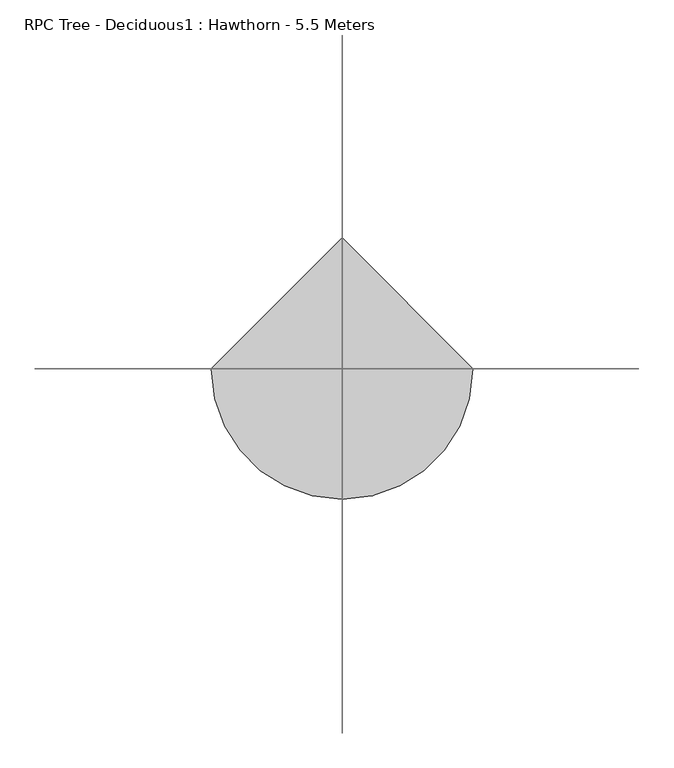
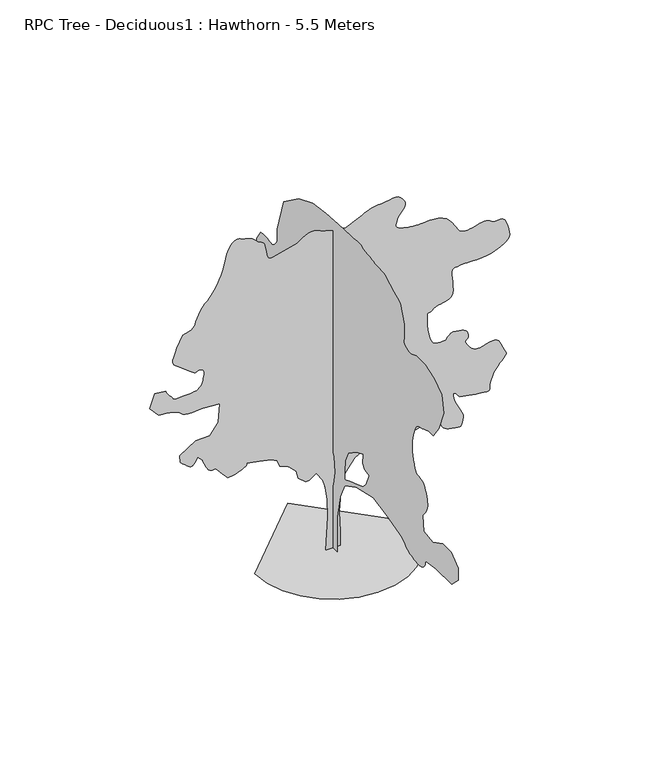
"""IFC4 building model written with IfcOpenShell, lengths in millimetres: geographic element geometry, RPC Tree - Deciduous1 : Hawthorn - 5.5 Meters."""

from ifc_helpers import new_model, si_unit, origin, place, context, project, spatial, triangles, source, transform, mapped, element, save


def rpc_tree_deciduous1_hawthorn_5_5_meters_b1aece7a(model_context):
    return source(origin(), model_context, "Body", "Tessellation", [
        triangles([(114.8598677, 0.0002849, 0.0139362), (-111.2205186, 0.0002849, 0.0139362), (-78.9229079, 0.0002531, 532.9164539), (-86.9974423, 0.0002367, 807.4431564), (-119.2943263, 0.0002242, 1017.3743105), (-151.5919461, 0.0002165, 1146.5636633), (-256.5564149, 0.0002079, 1291.9010857), (-361.5237906, 0.0002122, 1219.2313934), (-418.0435965, 0.0002127, 1211.1574677), (-531.0831356, 0.0002069, 1308.0490826), (-563.3809462, 0.0001992, 1437.2384354), (-676.4204853, 0.0001925, 1550.2779018), (-813.6838366, 0.0001891, 1606.7977077), (-854.0556456, 0.0001833, 1703.6893227), (-942.8731894, 0.0001804, 1752.1350574), (-1128.5805313, 0.000178, 1792.5068665), (-1314.28969, 0.0001761, 1824.8028603), (-1312.8303314, 0.0001765, 1817.8122986), (-1312.9952923, 0.000177, 1810.3964722), (-1316.4090374, 0.0001775, 1802.1337498), (-1324.6957409, 0.000178, 1792.6003201), (-1339.4778328, 0.0001787, 1781.371209), (-1362.3834114, 0.0001795, 1768.0244946), (-1395.033308, 0.0001804, 1752.1350574), (-1431.4486725, 0.0001814, 1736.7168125), (-1464.899683, 0.0001821, 1724.6864422), (-1495.8774433, 0.0001826, 1715.4830795), (-1524.8807602, 0.000183, 1708.5384453), (-1552.3991386, 0.0001833, 1703.2896378), (-1578.9274612, 0.0001836, 1699.1701218), (-1604.9643894, 0.0001838, 1695.6152515), (-1693.7819332, 0.000178, 1792.5068665), (-1790.6735481, 0.0001713, 1905.5464783), (-1809.6943348, 0.0001715, 1902.3014729), (-1828.6436142, 0.0001716, 1900.3213612), (-1847.448135, 0.0001716, 1900.8897858), (-1866.0564468, 0.0001713, 1905.2714951), (-1884.3714626, 0.0001707, 1914.7313828), (-1902.3197857, 0.0001698, 1930.5530914), (-1919.8647903, 0.0001684, 1953.9830566), (-1935.7597504, 0.0001668, 1980.731424), (-1949.1063194, 0.0001653, 2005.7746628), (-1960.3264194, 0.0001639, 2029.4063599), (-1969.8597038, 0.0001626, 2051.9196659), (-1978.1280945, 0.0001613, 2073.5712513), (-1985.5346191, 0.00016, 2094.6728703), (-1992.5379707, 0.0001588, 2115.4811932), (-2065.1929836, 0.0001544, 2188.1545189), (-2113.6478748, 0.0001588, 2115.4811932), (-2122.3928352, 0.0001596, 2101.8411827), (-2131.7979298, 0.0001603, 2089.4845242), (-2142.4494598, 0.0001609, 2079.6762566), (-2155.0261631, 0.0001613, 2073.6629608), (-2170.1327991, 0.0001613, 2072.7463017), (-2188.4295021, 0.000161, 2078.1913181), (-2210.5394897, 0.0001602, 2091.262904), (-2235.0327621, 0.0001591, 2109.7795063), (-2259.2693642, 0.0001579, 2129.7262539), (-2281.9293182, 0.0001567, 2149.5262081), (-2301.7843563, 0.0001557, 2167.6211792), (-2317.5326683, 0.0001548, 2182.4711449), (-2327.9093605, 0.0001542, 2192.51777), (-2331.6493938, 0.000154, 2196.2211777), (-2339.7160526, 0.0001472, 2309.264423), (-2097.4962444, 0.0001381, 2462.6775879), (-1879.4947254, 0.0001376, 2470.7442467), (-1750.3017391, 0.0001275, 2640.3088966), (-1726.077927, 0.0001102, 2930.983596), (-1992.5379707, 0.0001087, 2955.2021759), (-2049.4262135, 0.0001091, 2948.5104332), (-2105.1229591, 0.0001094, 2943.2488358), (-2158.4178165, 0.0001096, 2940.792009), (-2208.119434, 0.0001095, 2942.5887016), (-2252.999398, 0.000109, 2950.0321426), (-2291.8843792, 0.0001082, 2964.5335831), (-2323.5827351, 0.0001068, 2987.5054367), (-2355.5009903, 0.0001053, 3012.126899), (-2395.0459602, 0.0001042, 3031.2303841), (-2440.9524605, 0.0001033, 3045.7687408), (-2491.9374298, 0.0001027, 3056.6218575), (-2546.7358292, 0.0001022, 3064.7068291), (-2604.0823288, 0.0001018, 3070.9767952), (-2662.6938675, 0.0001015, 3076.3119347), (-2799.9555473, 9.24e-05, 3229.7252449), (-2719.2157082, 7.99e-05, 3439.6598145), (-2557.7357391, 8.08e-05, 3423.5081841), (-2547.3041084, 8.19e-05, 3404.5148666), (-2536.5974945, 8.31e-05, 3385.7232811), (-2525.3226013, 8.42e-05, 3367.3714943), (-2513.1858421, 8.52e-05, 3349.6432159), (-2499.9308372, 8.62e-05, 3332.7582001), (-2485.2642906, 8.72e-05, 3316.9550949), (-2468.9109283, 8.8e-05, 3302.3984253), (-2456.6459793, 8.89e-05, 3288.6667053), (-2450.8893539, 8.96e-05, 3275.650058), (-2446.2509743, 9.03e-05, 3264.0449524), (-2437.3775333, 9.09e-05, 3254.5667519), (-2418.8975567, 9.13e-05, 3247.9116348), (-2385.4392792, 9.15e-05, 3244.7766518), (-2331.6493938, 9.14e-05, 3245.8768753), (-2272.0293411, 9.12e-05, 3249.3417801), (-2223.4094891, 9.1e-05, 3252.8066849), (-2183.9745415, 9.08e-05, 3256.2532768), (-2151.89118, 9.06e-05, 3259.7184723), (-2125.3262318, 9.04e-05, 3263.1833771), (-2102.4096073, 9.02e-05, 3266.6482819), (-2081.344614, 9e-05, 3270.0951645), (-2060.7195648, 8.9e-05, 3285.751767), (-2040.9562363, 8.81e-05, 3301.9033974), (-2022.879578, 8.7e-05, 3319.0450836), (-2007.3329979, 8.59e-05, 3337.6532501), (-1995.196384, 8.47e-05, 3358.2598412), (-1987.2763733, 8.33e-05, 3381.323259), (-1984.4529991, 8.18e-05, 3407.3565536), (-1981.5929993, 8.01e-05, 3436.268161), (-1975.3230331, 7.82e-05, 3466.5916008), (-1969.199715, 7.64e-05, 3496.7682472), (-1966.7613464, 7.47e-05, 3525.258078), (-1971.5097485, 7.32e-05, 3550.4847359), (-1987.0013901, 7.2e-05, 3570.9265114), (-2016.7562599, 7.12e-05, 3585.0064659), (-2046.6029846, 7.1e-05, 3588.1597618), (-2064.7345814, 7.14e-05, 3581.559874), (-2078.1913181, 7.19e-05, 3572.2831146), (-2094.0679653, 7.22e-05, 3567.3880646), (-2119.3861874, 7.18e-05, 3573.9330139), (-2161.2411907, 7.04e-05, 3598.9765434), (-2226.6911201, 6.73e-05, 3649.5946747), (-2299.309362, 6.4e-05, 3705.969722), (-2357.8110237, 6.15e-05, 3747.6596191), (-2401.9026638, 5.95e-05, 3780.7328911), (-2431.2908409, 5.77e-05, 3811.2760849), (-2445.7193207, 5.57e-05, 3845.3210999), (-2444.8940804, 5.31e-05, 3888.9911087), (-2428.5408634, 4.95e-05, 3948.3360329), (-2405.2575462, 4.57e-05, 4011.8975601), (-2383.6792122, 4.26e-05, 4065.284127), (-2363.4942524, 3.99e-05, 4110.2008621), (-2344.4643093, 3.76e-05, 4148.3342903), (-2326.2593159, 3.56e-05, 4181.3892494), (-2308.622747, 3.39e-05, 4211.0525551), (-2291.2793289, 3.22e-05, 4239.0107323), (-2258.536124, 3.18e-05, 4246.1239609), (-2226.562785, 3.13e-05, 4254.3557259), (-2196.147781, 3.07e-05, 4264.8606079), (-2168.0611233, 2.98e-05, 4278.7574341), (-2143.0911358, 2.87e-05, 4297.1641594), (-2122.0078297, 2.73e-05, 4321.2173424), (-2105.5629032, 2.55e-05, 4352.0541229), (-2093.8479206, 2.36e-05, 4383.1839088), (-2084.9563122, 2.21e-05, 4409.2172035), (-2076.7613182, 2.06e-05, 4432.995694), (-2067.1546371, 1.92e-05, 4457.3238602), (-2054.0096546, 1.75e-05, 4485.0622833), (-2035.2362366, 1.55e-05, 4518.9971306), (-2008.6712883, 1.3e-05, 4561.9886925), (-1980.987949, 1.06e-05, 4601.2220535), (-1958.2547436, 9.1e-06, 4626.7786331), (-1937.5013592, 8e-06, 4645.6803864), (-1915.7397514, 6.8e-06, 4665.0036255), (-1890.0363785, 5.2e-06, 4691.8069313), (-1857.403196, 2.8e-06, 4733.1669067), (-1814.8954708, -1e-06, 4796.1418419), (-1771.1577335, -5.4e-06, 4869.4934692), (-1735.8954964, -9.5e-06, 4938.0416107), (-1707.6932934, -1.33e-05, 5002.9231155), (-1685.1414722, -1.7e-05, 5065.2565201), (-1666.8264565, -2.07e-05, 5126.1783829), (-1651.3384483, -2.43e-05, 5186.8246811), (-1637.2603832, -2.8e-05, 5248.2965103), (-1620.1003841, -3.16e-05, 5310.0247192), (-1596.8666279, -3.51e-05, 5368.3612747), (-1568.4058651, -3.82e-05, 5419.9145233), (-1535.5673172, -4.06e-05, 5461.2928116), (-1499.1977348, -4.23e-05, 5489.1230896), (-1460.1459034, -4.3e-05, 5499.994519), (-1419.2552307, -4.24e-05, 5490.5346313), (-1378.6965145, -4.14e-05, 5473.2281296), (-1339.9709713, -4.06e-05, 5460.8713257), (-1302.9431442, -4e-05, 5450.4946335), (-1267.4682747, -3.93e-05, 5439.1278854), (-1233.4049469, -3.84e-05, 5423.8014954), (-1200.6139978, -3.71e-05, 5401.5447144), (-1168.9523403, -3.52e-05, 5369.4245819), (-1139.7382078, -3.35e-05, 5340.5496002), (-1114.1980516, -3.25e-05, 5325.387735), (-1092.0459154, -3.2e-05, 5316.8812775), (-1073.0031097, -3.15e-05, 5307.9347305), (-1056.7836056, -3.05e-05, 5291.5078262), (-1043.1069695, -2.87e-05, 5260.5248337), (-1031.6889891, -2.55e-05, 5207.9263), (-1022.0383427, -2.2e-05, 5148.0497223), (-1012.8111443, -1.91e-05, 5099.5951218), (-1002.4528376, -1.69e-05, 5062.1764755), (-989.4123545, -1.53e-05, 5035.3368347), (-972.1331766, -1.43e-05, 5018.6715729), (-949.0643812, -1.39e-05, 5011.7417633), (-918.6494499, -1.4e-05, 5014.1433609), (-547.2329493, -1.98e-05, 5111.0351212), (-503.9644784, -2.16e-05, 5141.8349854), (-460.6282064, -2.33e-05, 5170.5082352), (-417.14892, -2.48e-05, 5194.9282562), (-373.4587815, -2.58e-05, 5213.023082), (-329.4845035, -2.64e-05, 5222.6114502), (-285.158212, -2.64e-05, 5221.6399979), (-240.408418, -2.55e-05, 5207.9263), (-196.1297981, -2.44e-05, 5188.8233963), (-153.1216856, -2.34e-05, 5172.6714752), (-111.1730379, -2.26e-05, 5158.9949844), (-70.0719447, -2.19e-05, 5147.298024), (-29.606287, -2.13e-05, 5137.0684158), (10.4354697, -2.08e-05, 5127.8463043), (50.2653684, -2.03e-05, 5119.1200928), (195.6036311, -1.93e-05, 5102.9681717), (421.6827275, -2.51e-05, 5199.8599319), (454.6863816, -2.63e-05, 5220.4848358), (488.4673502, -2.75e-05, 5240.2481644), (523.801131, -2.86e-05, 5258.324968), (561.4651111, -2.95e-05, 5273.8711121), (602.2365686, -3.02e-05, 5286.0081619), (646.8928545, -3.07e-05, 5293.9280273), (696.2094664, -3.08e-05, 5296.7511108), (749.7390478, -3.11e-05, 5300.5648315), (805.1057264, -3.16e-05, 5309.4561493), (860.1899368, -3.22e-05, 5319.6311096), (912.8726223, -3.27e-05, 5327.2579697), (961.0360342, -3.27e-05, 5328.5230087), (1002.5609705, -3.22e-05, 5319.6311096), (1035.3299732, -3.08e-05, 5296.7511108), (1060.8939651, -2.91e-05, 5266.9413025), (1081.6564333, -2.74e-05, 5239.2581085), (1096.7685923, -2.58e-05, 5212.8579758), (1105.3852175, -2.43e-05, 5186.8613068), (1106.6557068, -2.27e-05, 5160.4431519), (1099.7349083, -2.11e-05, 5132.7599579), (1083.7738913, -1.93e-05, 5102.9681717), (1064.0014063, -1.77e-05, 5075.8535477), (1046.2052542, -1.64e-05, 5055.0815598), (1030.3854349, -1.54e-05, 5038.1418961), (1016.5438379, -1.45e-05, 5022.4666901), (1004.6803179, -1.35e-05, 5005.5084229), (994.7932034, -1.22e-05, 4984.7550385), (986.882349, -1.06e-05, 4957.6218109), (978.5498634, -8.9e-06, 4928.361969), (969.6527321, -7.3e-06, 4902.4931992), (963.5789022, -6e-06, 4879.4486755), (963.7200274, -4.7e-06, 4858.6583748), (973.4660168, -3.6e-06, 4839.5734932), (996.2048178, -2.5e-06, 4821.6068573), (1035.3299732, -1.5e-06, 4804.2085007), (1084.5274063, -6e-07, 4789.2669708), (1134.2913746, 0.0, 4778.5603569), (1183.2083015, 5e-07, 4771.3735863), (1229.864756, 7e-07, 4767.0285027), (1272.8490509, 9e-07, 4764.7920113), (1310.7494991, 9e-07, 4763.9667709), (1342.1526695, 9e-07, 4763.8385811), (1377.6276844, 8e-07, 4765.8000893), (1426.2383801, 6e-07, 4769.5952065), (1484.3109982, 4e-07, 4772.1069717), (1548.1751232, 5e-07, 4770.2553406), (1614.1585957, 1.1e-06, 4760.9053299), (1678.5873665, 2.3e-06, 4740.9585823), (1737.7929096, 4.3e-06, 4707.3170311), (1787.1792847, 6.9e-06, 4662.8586983), (1826.397821, 9.8e-06, 4614.5686226), (1858.1364361, 1.27e-05, 4565.5820778), (1885.0680771, 1.55e-05, 4518.9971306), (1909.8731037, 1.8e-05, 4477.9304512), (1935.2464096, 1.99e-05, 4445.4620842), (1963.8647209, 2.11e-05, 4424.7273033), (1995.9663952, 2.18e-05, 4414.4055496), (2029.7362816, 2.2e-05, 4410.4639297), (2064.9363132, 2.19e-05, 4411.8022202), (2101.2545906, 2.16e-05, 4417.3757172), (2138.4161304, 2.11e-05, 4426.1388451), (2176.1645531, 2.04e-05, 4437.0105652), (2214.1695007, 1.97e-05, 4448.9455925), (2248.6910854, 1.93e-05, 4455.655648), (2282.626078, 1.9e-05, 4461.1006645), (2315.4426796, 1.88e-05, 4463.99729), (2346.5726109, 1.89e-05, 4463.0804855), (2375.4292797, 1.92e-05, 4457.0671898), (2401.4625744, 1.99e-05, 4444.7106766), (2424.1042156, 2.11e-05, 4424.7273033), (2449.3493317, 2.2e-05, 4410.060466), (2481.6342796, 2.21e-05, 4409.2355164), (2518.1724564, 2.18e-05, 4414.3506111), (2556.1224655, 2.16e-05, 4417.4672813), (2592.6606422, 2.2e-05, 4410.7206001), (2624.9455902, 2.34e-05, 4386.1723892), (2650.1905609, 2.64e-05, 4335.9022018), (2670.08237, 3.02e-05, 4273.1289986), (2686.7290283, 3.36e-05, 4216.2775269), (2697.8574188, 3.66e-05, 4165.3658089), (2701.2307594, 3.93e-05, 4120.3758224), (2694.5573296, 4.16e-05, 4081.3258804), (2675.6189507, 4.36e-05, 4048.19767), (2642.1055893, 4.52e-05, 4021.0092133), (2602.0655914, 4.66e-05, 3996.9010918), (2563.0156494, 4.8e-05, 3973.5077522), (2521.9858864, 4.93e-05, 3951.5259544), (2476.0058441, 5.05e-05, 3931.6527489), (2422.1242493, 5.15e-05, 3914.6026268), (2357.3709343, 5.23e-05, 3901.0912422), (2278.7760223, 5.29e-05, 3891.8144829), (2201.9411774, 5.32e-05, 3887.1394775), (2141.6245102, 5.32e-05, 3885.9843155), (2093.6095631, 5.32e-05, 3886.9560585), (2053.624649, 5.31e-05, 3888.6245613), (2017.4713326, 5.3e-05, 3889.5777008), (1980.8963848, 5.31e-05, 3888.4228294), (1939.6464317, 5.34e-05, 3883.7478241), (1899.8814171, 5.37e-05, 3878.7795227), (1869.7413963, 5.39e-05, 3875.6445396), (1847.9065372, 5.41e-05, 3871.2445175), (1833.1536587, 5.46e-05, 3862.4627861), (1824.1850201, 5.56e-05, 3846.2012787), (1819.7355824, 5.72e-05, 3819.3427437), (1818.5346382, 5.96e-05, 3778.7896957), (1821.7832771, 6.29e-05, 3724.2845924), (1828.704221, 6.66e-05, 3661.1814674), (1835.0548508, 7.06e-05, 3594.6680855), (1836.6131859, 7.45e-05, 3530.0063347), (1829.1277416, 7.79e-05, 3472.4031647), (1808.3652008, 8.06e-05, 3427.0832565), (1770.0889034, 8.23e-05, 3399.2898949), (1723.5974098, 8.31e-05, 3384.6233482), (1680.9193462, 8.38e-05, 3373.9167343), (1641.9132969, 8.43e-05, 3365.1716286), (1606.4384274, 8.48e-05, 3356.4448357), (1574.3533218, 8.54e-05, 3345.7382217), (1545.5149658, 8.63e-05, 3331.0716751), (1519.786013, 8.76e-05, 3310.4650841), (1497.5164421, 8.85e-05, 3294.386705), (1479.0621906, 8.88e-05, 3289.6201355), (1464.2782093, 8.89e-05, 3288.6483925), (1453.0270065, 8.91e-05, 3284.0100128), (1445.1638237, 9.01e-05, 3268.2249298), (1440.5494251, 9.21e-05, 3233.7767418), (1439.042395, 9.57e-05, 3173.2034042), (1442.3387054, 0.0001003, 3095.7453415), (1451.5676479, 0.000105, 3018.1218819), (1465.7375679, 0.0001094, 2944.1836624), (1483.8636417, 0.0001133, 2877.7255096), (1504.9561043, 0.0001166, 2822.5788757), (1528.0248997, 0.000119, 2782.5388779), (1552.0837509, 0.0001203, 2761.4189461), (1579.7194187, 0.0001208, 2753.3522873), (1612.0171566, 0.000121, 2749.2272484), (1645.7267269, 0.0001211, 2748.072377), (1677.6009441, 0.000121, 2748.8973267), (1704.3878265, 0.0001209, 2750.7123322), (1722.8439674, 0.0001208, 2752.5273376), (1729.7189838, 0.0001208, 2753.3522873), (1732.2837982, 0.0001204, 2759.5306892), (1740.357724, 0.0001195, 2775.1872917), (1754.5055523, 0.0001182, 2795.9220726), (1775.2919289, 0.0001169, 2817.3722168), (1803.2813541, 0.0001159, 2835.1554337), (1839.0330963, 0.0001153, 2844.8722824), (1883.1247364, 0.0001155, 2842.1587852), (1928.5914379, 0.000116, 2832.8820259), (1967.9713017, 0.0001165, 2824.3206299), (2001.1362831, 0.0001171, 2814.2006081), (2027.9395889, 0.000118, 2800.2671562), (2048.2713421, 0.0001192, 2780.2471573), (2061.9479782, 0.0001208, 2751.9038292), (2068.8413074, 0.0001232, 2712.9823677), (2066.2562908, 0.0001253, 2677.7821907), (2055.0363361, 0.0001265, 2657.8357338), (2040.4428955, 0.0001271, 2646.6707176), (2027.6829185, 0.0001276, 2637.7424835), (2021.9996899, 0.0001284, 2624.5790428), (2028.5812649, 0.0001299, 2600.6906754), (2052.689677, 0.0001323, 2559.5690575), (2085.4879658, 0.000135, 2515.1659538), (2115.2979195, 0.0001368, 2484.1823799), (2143.1462196, 0.000138, 2464.2176102), (2170.0227768, 0.0001387, 2452.8874878), (2196.8811665, 0.000139, 2447.7540802), (2224.7294666, 0.0001391, 2446.4341026), (2254.5394203, 0.000139, 2446.5259575), (2291.4810608, 0.0001386, 2453.5842476), (2337.4609577, 0.0001377, 2469.4059563), (2388.6476589, 0.0001367, 2485.9241341), (2441.26436, 0.0001362, 2495.1090385), (2491.4793182, 0.0001365, 2488.8943016), (2535.4792488, 0.0001383, 2459.2309959), (2569.4507217, 0.0001419, 2398.0709209), (2596.2540276, 0.000146, 2330.4209805), (2619.8124733, 0.0001488, 2282.9743126), (2637.8706734, 0.0001507, 2250.194482), (2648.1558014, 0.0001522, 2226.6177235), (2648.4307846, 0.0001533, 2206.6894341), (2636.3855896, 0.0001546, 2184.9461391), (2609.8206413, 0.0001564, 2155.8511127), (2578.5806877, 0.0001583, 2123.7678967), (2553.4458847, 0.00016, 2096.2312054), (2533.3523438, 0.0001615, 2072.4713184), (2517.310881, 0.0001628, 2051.7362469), (2504.3125465, 0.000164, 2033.2745831), (2493.3492622, 0.0001652, 2016.3346287), (2483.3940559, 0.0001662, 2000.1280598), (2480.919207, 0.000166, 2001.9062943), (2477.5458664, 0.000166, 2000.8796127), (2472.394146, 0.0001662, 1994.3163506), (2464.5658447, 0.000167, 1979.4297592), (2453.162471, 0.0001685, 1953.451403), (2437.267511, 0.0001708, 1913.5948242), (2416.0375568, 0.0001742, 1857.1097546), (2400.0325745, 0.0001776, 1799.4515007), (2395.7425747, 0.0001802, 1756.7715477), (2396.1092674, 0.0001819, 1727.2293102), (2394.0926754, 0.000183, 1708.9858017), (2382.5975922, 0.0001835, 1700.2059597), (2354.5843311, 0.0001836, 1699.050943), (2302.9943115, 0.0001833, 1703.6893227), (2240.0744602, 0.0001829, 1710.8448452), (2182.2327873, 0.0001824, 1718.4256325), (2128.6261757, 0.000182, 1726.3584332), (2078.4112175, 0.0001815, 1734.5736294), (2030.7446503, 0.000181, 1743.001458), (1984.7830662, 0.0001805, 1751.5704117), (1939.6464317, 0.00018, 1760.2091286), (1910.6064892, 0.0001778, 1795.7555054), (1883.7480995, 0.000176, 1826.5683048), (1861.2531063, 0.0001747, 1847.9248501), (1845.3398335, 0.0001743, 1855.0748497), (1838.1898338, 0.000175, 1843.3047832), (1841.9848057, 0.0001771, 1807.8775852), (1858.9064472, 0.0001809, 1744.0611317), (1885.9847363, 0.0001853, 1670.097187), (1916.2897179, 0.0001891, 1606.1615547), (1946.1913811, 0.0001925, 1550.4191723), (1971.9863182, 0.0001954, 1501.0310532), (1990.0263508, 0.0001981, 1456.163879), (1996.6080711, 0.0002006, 1413.980698), (1988.1013229, 0.0002031, 1372.6428143), (1975.4513683, 0.0002052, 1335.9450542), (1969.0347542, 0.0002069, 1308.4247864), (1964.158017, 0.000208, 1289.3820534), (1956.1830677, 0.0002087, 1278.1052708), (1940.4347557, 0.0002089, 1273.8921558), (1912.2563885, 0.0002088, 1276.0335949), (1866.973106, 0.0002083, 1283.8252705), (1816.3695087, 0.0002077, 1293.9012543), (1774.5145054, 0.0002071, 1304.1183632), (1740.2862167, 0.0002065, 1315.6060341), (1712.5570953, 0.0002056, 1329.4935585), (1690.1940708, 0.0002046, 1346.9138615), (1672.067997, 0.0002033, 1368.9944904), (1657.0492916, 0.0002016, 1396.8666264), (1647.5617893, 0.0001998, 1426.9277275), (1644.4323292, 0.0001982, 1454.446106), (1644.1262432, 0.0001967, 1478.8568253), (1643.114241, 0.0001955, 1499.5955303), (1637.8635441, 0.0001945, 1516.0972847), (1624.8468967, 0.0001938, 1527.7958439), (1600.529631, 0.0001934, 1534.1299049), (1571.7389465, 0.0001933, 1536.8836613), (1547.1869568, 0.0001932, 1538.3668556), (1526.1660015, 0.0001932, 1538.7902309), (1507.9682751, 0.0001932, 1538.3668556), (1491.8917854, 0.0001932, 1537.3071819), (1477.2252388, 0.0001933, 1535.8239876), (1463.2662071, 0.0001934, 1534.1299049), (1269.4831226, 0.0001978, 1461.460358), (1140.2936972, 0.0001925, 1550.2779018), (996.7218647, 0.0001952, 1498.0335617), (1018.3331182, 0.0001961, 1484.9288383), (1036.9231173, 0.0001969, 1471.3677475), (1049.4704618, 0.0001979, 1456.8934856), (1052.9537521, 0.0001989, 1441.0480865), (1044.3518063, 0.0002, 1423.3747467), (1020.6449684, 0.0002012, 1403.4170986), (978.8101673, 0.0002026, 1380.71674), (933.6130714, 0.0002038, 1360.80313), (899.0071169, 0.0002045, 1348.9378658), (870.7591318, 0.0002047, 1344.2775398), (844.6304941, 0.0002046, 1345.9714771), (816.382509, 0.0002042, 1353.1764153), (781.7783712, 0.0002035, 1365.0399353), (736.5812754, 0.0002026, 1380.71674), (526.6483046, 0.0001987, 1445.3123611), (332.8651837, 0.000205, 1340.3468204), (187.5278159, 0.0002165, 1146.5636633), (139.082944, 0.0002247, 1009.300312), (122.9338571, 0.0002348, 839.740967), (98.7115165, 0.0002517, 557.140266), (114.8598677, 0.0002719, 218.0197773), (-8.87e-05, -113.6726037, 0.0115907), (-8.87e-05, 120.4837977, 0.0116047), (-7.31e-05, 128.2890262, 507.3506453), (-6.26e-05, 167.314969, 764.922714), (-5.22e-05, 292.1982074, 1022.4947828), (-4.7e-05, 409.2765807, 1194.2082842), (-4.18e-05, 612.2116865, 1334.7019615), (-3.13e-05, 963.4468609, 1490.8065319), (-2.09e-05, 1377.1235001, 1537.6371037), (-2.09e-05, 1619.0847485, 1389.3388882), (-2.09e-05, 1798.6046047, 1365.9236023), (-1.57e-05, 1900.0648361, 1561.0542789), (-1.04e-05, 2063.9828831, 1584.4695648), (-5.2e-06, 2407.4026188, 1607.8848507), (0.0, 2610.3522949, 1623.4956711), (5.2e-06, 2711.8088928, 1701.5480289), (5.2e-06, 2704.0172173, 1826.4308132), (1.04e-05, 2828.8854675, 1904.4830257), (1.04e-05, 2863.8286835, 1911.266478), (1.04e-05, 2897.5987152, 1918.5997513), (1.04e-05, 2929.0404007, 1927.01479), (1.57e-05, 2956.9985779, 1937.0614151), (1.57e-05, 2980.3369789, 1949.3080513), (1.57e-05, 2997.8452126, 1964.2863522), (1.57e-05, 3008.4053238, 1982.5279713), (1.57e-05, 3014.6386642, 2004.4180595), (1.57e-05, 3020.0653679, 2029.5896336), (1.57e-05, 3024.7953117, 2057.4928722), (2.09e-05, 3028.9752892, 2087.5779545), (2.09e-05, 3032.7520935, 2119.2944778), (2.09e-05, 3036.2719368, 2152.1112247), (2.09e-05, 3039.6269646, 2185.4777927), (2.61e-05, 2906.9487259, 2349.3776722), (2.09e-05, 2618.1439705, 2364.997649), (1.57e-05, 2446.4341026, 2240.1110859), (1.57e-05, 2435.9475334, 2238.03941), (1.57e-05, 2408.3925293, 2233.0894215), (1.57e-05, 2369.6360287, 2227.2044609), (1.04e-05, 2325.5627014, 2222.2727852), (1.04e-05, 2282.0210278, 2220.2011093), (1.04e-05, 2244.9144264, 2222.8961483), (1.04e-05, 2220.091087, 2232.3010975), (1.04e-05, 2203.1328197, 2248.1777447), (1.04e-05, 2185.7710888, 2268.5827492), (1.04e-05, 2168.0611233, 2292.7093288), (1.04e-05, 2150.0944874, 2319.8610146), (1.57e-05, 2131.9078068, 2349.2676498), (1.57e-05, 2113.5929363, 2380.1776817), (1.57e-05, 2095.2045238, 2411.8209538), (2.09e-05, 2056.1728947, 2606.9606415), (2.61e-05, 2220.091087, 2731.8288918), (3.65e-05, 2344.9776501, 2942.5703888), (3.65e-05, 2142.0278286, 3129.9002335), (3.13e-05, 1931.2863316, 3059.6469635), (2.61e-05, 1798.6046047, 2950.3803772), (2.61e-05, 1650.3044998, 3051.8552879), (3.13e-05, 1650.3044998, 3223.5651558), (4.18e-05, 1790.7982498, 3379.6733597), (4.18e-05, 1820.8135689, 3396.3749565), (4.18e-05, 1850.289822, 3412.9300507), (4.18e-05, 1878.6514629, 3429.2281837), (4.18e-05, 1905.3998302, 3445.1048309), (4.18e-05, 1929.9480412, 3460.4498245), (4.7e-05, 1951.7647327, 3475.0980583), (4.7e-05, 1970.3179607, 3488.939946), (4.7e-05, 1984.7647533, 3508.2448723), (4.7e-05, 1995.1229874, 3538.1831612), (4.7e-05, 2002.0714005, 3577.0130585), (5.22e-05, 2006.2696907, 3622.9198494), (5.22e-05, 2008.4329308, 3674.1798019), (5.22e-05, 2009.2397129, 3728.9595978), (5.22e-05, 2009.3495899, 3785.5360863), (5.74e-05, 1907.8748245, 3941.6442902), (5.74e-05, 1904.2080425, 3942.4878433), (5.74e-05, 1893.8681213, 3944.5595192), (5.74e-05, 1877.7714294, 3947.1811615), (5.74e-05, 1856.908168, 3949.6560104), (5.74e-05, 1832.2150532, 3951.3059097), (5.74e-05, 1804.6564156, 3951.4710159), (5.74e-05, 1775.1891735, 3949.4542786), (5.74e-05, 1743.8777126, 3944.9260666), (5.22e-05, 1711.0630005, 3939.0226479), (5.22e-05, 1678.1125408, 3933.2660225), (5.22e-05, 1646.3922386, 3929.1409836), (5.22e-05, 1617.26422, 3928.1695313), (5.22e-05, 1592.0962795, 3931.8361679), (5.22e-05, 1572.2540314, 3941.6442902), (5.22e-05, 1556.2106792, 3955.7059319), (5.22e-05, 1541.3973392, 3970.9959869), (5.22e-05, 1527.6069019, 3987.3127235), (5.22e-05, 1514.636182, 4004.4544098), (5.22e-05, 1502.2795235, 4022.201001), (5.22e-05, 1490.3317062, 4040.3510559), (5.22e-05, 1478.5909985, 4058.7208649), (6.26e-05, 1470.7846436, 4253.8423851), (7.31e-05, 1306.875753, 4800.2119423), (7.83e-05, 908.8099342, 5089.0166977), (7.83e-05, 534.159474, 5245.1065887), (7.31e-05, 190.7306364, 5291.9479156), (6.79e-05, -144.8933179, 5315.3598587), (6.26e-05, -472.7116985, 5330.9798355), (6.26e-05, -501.4528221, 5332.6111313), (6.26e-05, -543.9824573, 5336.424852), (6.26e-05, -594.9783998, 5340.8065613), (6.26e-05, -649.1148846, 5344.0697342), (6.26e-05, -701.0660013, 5344.6197006), (5.74e-05, -745.5077654, 5340.8065613), (5.74e-05, -777.1162285, 5330.9798355), (5.74e-05, -809.6340111, 5318.4945511), (5.74e-05, -856.6241661, 5307.6777695), (5.74e-05, -912.4894335, 5298.1998596), (5.74e-05, -971.6308817, 5289.8213013), (5.22e-05, -1028.4513233, 5282.2682739), (5.22e-05, -1077.3535709, 5275.2646317), (5.22e-05, -1112.738693, 5268.536554), (5.22e-05, -1145.1886745, 5263.8798615), (5.22e-05, -1186.9226824, 5261.9730011), (5.22e-05, -1234.8000652, 5260.7445877), (4.7e-05, -1285.6824245, 5258.1598618), (4.7e-05, -1336.4271469, 5252.1462753), (4.7e-05, -1383.8957611, 5240.6696503), (4.7e-05, -1424.9477612, 5221.6946457), (4.7e-05, -1464.70173, 5197.604837), (4.18e-05, -1509.7815365, 5172.2680115), (4.18e-05, -1559.2979908, 5145.9231079), (4.18e-05, -1612.3637924, 5118.7532547), (3.65e-05, -1668.0933849, 5090.9601837), (3.65e-05, -1725.5958344, 5062.7630676), (3.65e-05, -1783.9873283, 5034.364801), (2.61e-05, -1893.2630711, 4761.1986259), (1.57e-05, -1885.4530827, 4511.4254997), (1.57e-05, -1879.0547813, 4499.6555786), (1.57e-05, -1874.4348598, 4487.5554451), (1.57e-05, -1873.3714073, 4474.7588425), (1.57e-05, -1877.6247814, 4460.9538712), (1.57e-05, -1888.9913841, 4445.7739838), (1.57e-05, -1909.2131149, 4428.8889679), (1.57e-05, -1940.0863758, 4409.950589), (1.57e-05, -1977.1197258, 4394.8988914), (1.04e-05, -2014.5562489, 4388.8306572), (1.04e-05, -2052.3229843, 4390.2971375), (1.04e-05, -2090.3645576, 4397.7588913), (1.04e-05, -2128.6261757, 4409.7305443), (1.04e-05, -2167.0161289, 4424.7089905), (1.04e-05, -2205.461166, 4441.1722298), (5.2e-06, -2447.4241585, 4441.1722298), (0.0, -2689.3872963, 4363.1272842), (-5.2e-06, -2884.5271294, 4222.6390572), (-1.57e-05, -2931.3504341, 3949.4542786), (-2.09e-05, -2798.6721954, 3621.6364975), (-2.61e-05, -2658.1656555, 3426.4966644), (-2.61e-05, -2632.8840591, 3426.3681839), (-2.61e-05, -2606.4473007, 3425.4150444), (-2.61e-05, -2577.6824867, 3422.8117149), (-2.61e-05, -2545.4341644, 3417.7698715), (-2.61e-05, -2508.5474625, 3409.4282295), (-2.61e-05, -2465.8675095, 3397.0164871), (-2.09e-05, -2416.2025177, 3379.6733597), (-2.09e-05, -2366.3910233, 3362.9717628), (-2.09e-05, -2323.5459641, 3351.1832382), (-2.09e-05, -2286.9710163, 3341.5765572), (-2.09e-05, -2256.0060459, 3331.4199097), (-2.09e-05, -2229.9544384, 3318.0000893), (-2.09e-05, -2208.1377468, 3298.5666824), (-2.09e-05, -2189.859502, 3270.3884605), (-2.61e-05, -2171.9661175, 3229.9633118), (-2.61e-05, -2152.8627777, 3178.1900185), (-2.61e-05, -2134.1445889, 3119.0468262), (-2.61e-05, -2117.4979305, 3056.4936676), (-3.13e-05, -2104.5179089, 2994.4904755), (-3.13e-05, -2096.8728813, 2936.9788696), (-3.13e-05, -2096.1945797, 2887.9370956), (-3.65e-05, -2102.6845905, 2837.777076), (-3.65e-05, -2114.6196178, 2778.2121071), (-3.65e-05, -2130.8078739, 2715.0906693), (-4.18e-05, -2149.984465, 2654.2789742), (-4.18e-05, -2170.939436, 2601.6807312), (-4.7e-05, -2192.4445187, 2563.1258171), (-4.7e-05, -2213.2711544, 2544.5173599), (-4.7e-05, -2238.0760357, 2539.3290138), (-4.7e-05, -2270.2511066, 2535.4975616), (-4.7e-05, -2306.6610935, 2530.5841988), (-4.7e-05, -2344.1710133, 2522.1140762), (-4.7e-05, -2379.6092571, 2507.6492615), (-5.22e-05, -2409.8776131, 2484.7143242), (-5.22e-05, -2431.8226398, 2450.8524376), (-5.22e-05, -2448.8359909, 2411.600909), (-5.22e-05, -2465.7210068, 2373.8343189), (-5.74e-05, -2481.3776093, 2337.1859745), (-5.74e-05, -2494.7241783, 2301.1977642), (-5.74e-05, -2504.6424683, 2265.5027046), (-5.74e-05, -2510.0508591, 2229.6611423), (-6.26e-05, -2509.86744, 2193.2694683), (-6.26e-05, -2503.5608482, 2157.6111797), (-6.26e-05, -2491.9374298, 2124.0062542), (-6.26e-05, -2475.8776543, 2092.1063118), (-6.26e-05, -2456.2608284, 2061.5629726), (-6.26e-05, -2433.9858799, 2032.046315), (-6.26e-05, -2409.9325516, 2003.2262718), (-6.26e-05, -2384.9808769, 1974.7362957), (-7.31e-05, -2400.6009991, 1724.9633148), (-7.83e-05, -2650.3739799, 1693.741674), (-7.83e-05, -2907.9387817, 1826.4308132), (-7.83e-05, -3134.2819427, 1826.4308132), (-8.87e-05, -3313.801799, 1678.1325977), (-9.4e-05, -3321.6117874, 1490.8065319), (-9.4e-05, -3142.0919312, 1319.0930305), (-8.87e-05, -2720.6089371, 1311.2866756), (-8.87e-05, -2455.2341469, 1272.2605694), (-8.87e-05, -2448.2124825, 1239.0149242), (-8.87e-05, -2439.1191422, 1206.9976198), (-8.87e-05, -2425.9558468, 1177.4388136), (-8.87e-05, -2406.6326077, 1151.5650295), (-8.87e-05, -2379.1142292, 1130.6063524), (-8.87e-05, -2341.3659519, 1115.7930851), (-8.87e-05, -2291.3344128, 1108.3515335), (-8.87e-05, -2237.6727173, 1107.2588676), (-8.87e-05, -2189.8778149, 1110.1262072), (-8.87e-05, -2147.1429234, 1116.1340527), (-8.35e-05, -2108.6429478, 1124.4629047), (-8.35e-05, -2073.5529385, 1134.2931913), (-8.35e-05, -2041.0662586, 1144.8054857), (-8.35e-05, -2010.3396458, 1155.1821779), (-8.35e-05, -1978.9530441, 1169.5188028), (-8.35e-05, -1945.6597275, 1190.545281), (-7.83e-05, -1911.413126, 1215.394273), (-7.83e-05, -1877.1665245, 1241.200256), (-7.83e-05, -1843.8732079, 1265.0922569), (-7.83e-05, -1812.5011402, 1284.2083866), (-7.83e-05, -1783.9873283, 1295.6758553), (-6.79e-05, -1417.1432957, 1397.1452431), (-6.26e-05, -1073.7125868, 1459.5866352), (-5.74e-05, -613.2053759, 1350.3127819), (-5.74e-05, -308.802699, 1186.4038187), (-6.26e-05, -191.7243075, 944.4425703), (-7.31e-05, -113.6726037, 569.7921101), (-8.35e-05, -113.6726037, 257.5830783), (5.2e-06, 253.172083, 1568.8587444), (5.2e-06, 276.587387, 1436.1696053), (0.0, 253.172083, 1264.4561039), (-1.04e-05, 159.5097404, 1092.7407131), (-1.57e-05, 50.2369499, 850.7794647), (-1.57e-05, -20.0100795, 1038.1037865), (-5.2e-06, -59.0360222, 1256.649749), (0.0, -35.620348, 1490.8065319), (5.2e-06, 50.2369499, 1670.3263882), (1.04e-05, 128.2890262, 1732.7677803), (-2.61e-05, -800.5315144, 1998.1479481), (-2.61e-05, -621.0117308, 1920.0846897), (-2.61e-05, -410.2702701, 1779.6002415), (-3.13e-05, -332.2179849, 1607.8848507), (-3.65e-05, -316.6072008, 1428.3651398), (-4.18e-05, -316.6072008, 1295.6758553), (-4.18e-05, -441.4918745, 1342.5083164), (-4.18e-05, -652.2314821, 1412.7543194), (-4.18e-05, -800.5315144, 1475.1974556), (-4.18e-05, -878.5837996, 1561.0542789), (-3.65e-05, -956.6360121, 1740.5741352), (-3.13e-05, -839.5576933, 1771.7938866), (-3.13e-05, -792.7252321, 1849.8498779), (-1191.1246061, 0.0, 7.1e-05), (-1159.6353218, -272.9262188, 5.47e-05), (-1069.9542406, -523.5664796, 3.98e-05), (-929.2607208, -744.7377542, 2.66e-05), (-744.7377542, -929.2607208, 1.56e-05), (-523.5664796, -1069.9524239, 7.2e-06), (-272.9262188, -1159.6353218, 1.9e-06), (4.7e-05, -1191.1246061, 0.0), (272.9262188, -1159.6353218, 1.9e-06), (523.5664796, -1069.9524239, 7.2e-06), (744.7377542, -929.2607208, 1.56e-05), (929.2607208, -744.7377542, 2.66e-05), (1069.9524239, -523.5664796, 3.98e-05), (1159.6353218, -272.9262188, 5.47e-05), (1191.1246061, 0.0001041, 7.1e-05), (-0.0001618, 1191.1246061, 0.000142)], [[403, 404, 405], [1, 2, 3], [491, 1, 3], [490, 491, 3], [490, 3, 4], [489, 490, 4], [489, 4, 5], [488, 489, 5], [84, 85, 86], [84, 86, 87], [83, 84, 87], [83, 87, 88], [83, 88, 89], [83, 89, 90], [82, 83, 90], [82, 90, 91], [82, 91, 92], [81, 82, 92], [81, 92, 93], [81, 93, 94], [81, 94, 95], [81, 95, 96], [81, 96, 97], [80, 81, 97], [80, 97, 98], [79, 80, 98], [79, 98, 99], [78, 79, 99], [78, 99, 100], [77, 78, 100], [77, 100, 101], [488, 5, 6], [487, 488, 6], [76, 77, 101], [76, 101, 102], [75, 76, 102], [74, 75, 102], [73, 74, 102], [73, 102, 103], [72, 73, 103], [72, 103, 104], [71, 72, 104], [71, 104, 105], [70, 71, 105], [70, 105, 106], [70, 106, 107], [69, 70, 107], [68, 69, 107], [68, 107, 108], [68, 108, 109], [68, 109, 110], [68, 110, 111], [68, 111, 112], [63, 64, 65], [62, 63, 65], [61, 62, 65], [60, 61, 65], [59, 60, 65], [58, 59, 65], [57, 58, 65], [56, 57, 65], [55, 56, 65], [54, 55, 65], [53, 54, 65], [52, 53, 65], [51, 52, 65], [50, 51, 65], [49, 50, 65], [48, 49, 65], [48, 65, 66], [47, 48, 66], [30, 31, 32], [467, 468, 469], [487, 6, 7], [486, 487, 7], [68, 112, 113], [8, 9, 10], [7, 8, 10], [7, 10, 11], [29, 30, 32], [414, 415, 416], [414, 416, 417], [413, 414, 417], [413, 417, 418], [412, 413, 418], [412, 418, 419], [141, 142, 143], [411, 412, 419], [411, 419, 420], [12, 13, 14], [28, 29, 32], [424, 425, 426], [27, 28, 32], [442, 443, 444], [441, 442, 444], [441, 444, 445], [440, 441, 445], [440, 445, 446], [439, 440, 446], [439, 446, 447], [438, 439, 447], [437, 438, 447], [436, 437, 447], [436, 447, 448], [435, 436, 448], [435, 448, 449], [435, 449, 450], [435, 450, 451], [435, 451, 452], [435, 452, 453], [435, 453, 454], [435, 454, 455], [435, 455, 456], [434, 435, 456], [434, 456, 457], [433, 434, 457], [433, 457, 458], [432, 433, 458], [432, 458, 459], [431, 432, 459], [431, 459, 460], [431, 460, 461], [430, 431, 461], [430, 461, 462], [430, 462, 463], [430, 463, 464], [411, 420, 421], [410, 411, 421], [410, 421, 422], [409, 410, 422], [409, 422, 423], [408, 409, 423], [408, 423, 424], [408, 424, 426], [408, 426, 427], [408, 427, 428], [407, 408, 428], [430, 464, 465], [406, 407, 428], [473, 474, 475], [472, 473, 475], [472, 475, 476], [471, 472, 476], [471, 476, 477], [470, 471, 477], [470, 477, 478], [470, 478, 479], [470, 479, 480], [470, 480, 481], [470, 481, 482], [470, 482, 483], [470, 483, 484], [470, 484, 485], [406, 428, 429], [26, 27, 32], [68, 113, 114], [25, 26, 32], [25, 32, 33], [24, 25, 33], [23, 24, 33], [22, 23, 33], [21, 22, 33], [20, 21, 33], [19, 20, 33], [18, 19, 33], [17, 18, 33], [46, 47, 66], [430, 465, 466], [45, 46, 66], [44, 45, 66], [43, 44, 66], [42, 43, 66], [41, 42, 66], [40, 41, 66], [39, 40, 66], [38, 39, 66], [37, 38, 66], [36, 37, 66], [35, 36, 66], [34, 35, 66], [33, 34, 66], [17, 33, 66], [17, 66, 67], [16, 17, 67], [15, 16, 67], [15, 67, 68], [68, 114, 115], [68, 115, 116], [68, 116, 117], [430, 466, 467], [430, 467, 469], [429, 430, 469], [403, 405, 406], [124, 125, 126], [123, 124, 126], [123, 126, 127], [403, 406, 429], [402, 403, 429], [401, 402, 429], [400, 401, 429], [399, 400, 429], [122, 123, 127], [122, 127, 128], [486, 7, 11], [486, 11, 12], [485, 486, 12], [485, 12, 14], [394, 395, 396], [393, 394, 396], [393, 396, 397], [392, 393, 397], [392, 397, 398], [391, 392, 398], [391, 398, 399], [391, 399, 429], [390, 391, 429], [389, 390, 429], [388, 389, 429], [387, 388, 429], [386, 387, 429], [385, 386, 429], [384, 385, 429], [383, 384, 429], [382, 383, 429], [381, 382, 429], [380, 381, 429], [379, 380, 429], [378, 379, 429], [377, 378, 429], [376, 377, 429], [376, 429, 469], [375, 376, 469], [374, 375, 469], [374, 469, 470], [374, 470, 485], [374, 485, 14], [373, 374, 14], [373, 14, 15], [373, 15, 68], [373, 68, 117], [373, 117, 118], [373, 118, 119], [372, 373, 119], [372, 119, 120], [325, 326, 327], [325, 327, 328], [324, 325, 328], [323, 324, 328], [323, 328, 329], [323, 329, 330], [322, 323, 330], [322, 330, 331], [321, 322, 331], [321, 331, 332], [320, 321, 332], [320, 332, 333], [319, 320, 333], [175, 176, 177], [174, 175, 177], [173, 174, 177], [173, 177, 178], [172, 173, 178], [172, 178, 179], [171, 172, 179], [170, 171, 179], [170, 179, 180], [170, 180, 181], [170, 181, 182], [170, 182, 183], [170, 183, 184], [169, 170, 184], [169, 184, 185], [168, 169, 185], [168, 185, 186], [167, 168, 186], [166, 167, 186], [166, 186, 187], [166, 187, 188], [166, 188, 189], [166, 189, 190], [166, 190, 191], [166, 191, 192], [166, 192, 193], [166, 193, 194], [166, 194, 195], [165, 166, 195], [164, 165, 195], [164, 195, 196], [163, 164, 196], [162, 163, 196], [162, 196, 197], [161, 162, 197], [160, 161, 197], [289, 290, 291], [289, 291, 292], [288, 289, 292], [288, 292, 293], [287, 288, 293], [287, 293, 294], [286, 287, 294], [286, 294, 295], [286, 295, 296], [286, 296, 297], [286, 297, 298], [286, 298, 299], [286, 299, 300], [286, 300, 301], [286, 301, 302], [286, 302, 303], [286, 303, 304], [286, 304, 305], [286, 305, 306], [285, 286, 306], [285, 306, 307], [284, 285, 307], [283, 284, 307], [282, 283, 307], [281, 282, 307], [280, 281, 307], [279, 280, 307], [278, 279, 307], [277, 278, 307], [276, 277, 307], [275, 276, 307], [275, 307, 308], [275, 308, 309], [274, 275, 309], [274, 309, 310], [273, 274, 310], [273, 310, 311], [273, 311, 312], [272, 273, 312], [272, 312, 313], [271, 272, 313], [271, 313, 314], [271, 314, 315], [271, 315, 316], [270, 271, 316], [270, 316, 317], [269, 270, 317], [268, 269, 317], [267, 268, 317], [266, 267, 317], [265, 266, 317], [264, 265, 317], [263, 264, 317], [262, 263, 317], [261, 262, 317], [260, 261, 317], [259, 260, 317], [258, 259, 317], [257, 258, 317], [256, 257, 317], [256, 317, 318], [255, 256, 318], [254, 255, 318], [253, 254, 318], [252, 253, 318], [252, 318, 319], [252, 319, 333], [252, 333, 334], [252, 334, 335], [252, 335, 336], [252, 336, 337], [252, 337, 338], [251, 252, 338], [250, 251, 338], [249, 250, 338], [249, 338, 339], [248, 249, 339], [369, 370, 371], [369, 371, 372], [368, 369, 372], [367, 368, 372], [366, 367, 372], [365, 366, 372], [364, 365, 372], [363, 364, 372], [362, 363, 372], [361, 362, 372], [360, 361, 372], [359, 360, 372], [358, 359, 372], [357, 358, 372], [356, 357, 372], [355, 356, 372], [354, 355, 372], [248, 339, 340], [140, 141, 143], [140, 143, 144], [139, 140, 144], [353, 354, 372], [132, 133, 134], [131, 132, 134], [131, 134, 135], [130, 131, 135], [130, 135, 136], [129, 130, 136], [129, 136, 137], [128, 129, 137], [122, 128, 137], [122, 137, 138], [122, 138, 139], [122, 139, 144], [122, 144, 145], [122, 145, 146], [121, 122, 146], [121, 146, 147], [120, 121, 147], [120, 147, 148], [120, 148, 149], [120, 149, 150], [120, 150, 151], [120, 151, 152], [120, 152, 153], [120, 153, 154], [120, 154, 155], [120, 155, 156], [120, 156, 157], [120, 157, 158], [120, 158, 159], [120, 159, 160], [120, 160, 197], [120, 197, 198], [120, 198, 199], [227, 228, 229], [227, 229, 230], [226, 227, 230], [226, 230, 231], [225, 226, 231], [225, 231, 232], [225, 232, 233], [225, 233, 234], [225, 234, 235], [225, 235, 236], [225, 236, 237], [225, 237, 238], [225, 238, 239], [225, 239, 240], [224, 225, 240], [224, 240, 241], [223, 224, 241], [223, 241, 242], [222, 223, 242], [222, 242, 243], [222, 243, 244], [222, 244, 245], [221, 222, 245], [220, 221, 245], [219, 220, 245], [218, 219, 245], [218, 245, 246], [217, 218, 246], [216, 217, 246], [215, 216, 246], [215, 246, 247], [214, 215, 247], [214, 247, 248], [214, 248, 340], [213, 214, 340], [212, 213, 340], [211, 212, 340], [211, 340, 341], [210, 211, 341], [209, 210, 341], [209, 341, 342], [208, 209, 342], [207, 208, 342], [207, 342, 343], [206, 207, 343], [205, 206, 343], [204, 205, 343], [203, 204, 343], [202, 203, 343], [201, 202, 343], [200, 201, 343], [199, 200, 343], [120, 199, 343], [120, 343, 344], [120, 344, 345], [120, 345, 346], [120, 346, 347], [120, 347, 348], [352, 353, 372], [351, 352, 372], [350, 351, 372], [349, 350, 372], [349, 372, 120], [349, 120, 348], [733, 741, 742], [741, 733, 734], [492, 731, 732], [492, 732, 733], [728, 492, 733], [727, 728, 733], [741, 734, 735], [733, 742, 743], [733, 743, 744], [741, 735, 736], [726, 727, 733], [726, 733, 744], [725, 726, 744], [724, 725, 744], [724, 744, 745], [724, 745, 746], [723, 724, 746], [723, 746, 747], [723, 747, 748], [741, 736, 737], [492, 493, 494], [723, 748, 749], [542, 543, 544], [542, 544, 545], [541, 542, 545], [541, 545, 546], [501, 502, 503], [500, 501, 503], [722, 723, 749], [506, 507, 508], [505, 506, 508], [641, 642, 643], [741, 737, 738], [696, 697, 698], [695, 696, 698], [695, 698, 699], [694, 695, 699], [693, 694, 699], [693, 699, 700], [692, 693, 700], [523, 524, 525], [522, 523, 525], [521, 522, 525], [521, 525, 526], [520, 521, 526], [519, 520, 526], [518, 519, 526], [517, 518, 526], [516, 517, 526], [515, 516, 526], [514, 515, 526], [513, 514, 526], [512, 513, 526], [511, 512, 526], [510, 511, 526], [509, 510, 526], [508, 509, 526], [505, 508, 526], [505, 526, 527], [505, 527, 528], [505, 528, 529], [505, 529, 530], [504, 505, 530], [504, 530, 531], [504, 531, 532], [504, 532, 533], [503, 504, 533], [503, 533, 534], [503, 534, 535], [500, 503, 535], [500, 535, 536], [500, 536, 537], [500, 537, 538], [500, 538, 539], [500, 539, 540], [500, 540, 541], [500, 541, 546], [500, 546, 547], [499, 500, 547], [641, 643, 644], [638, 639, 640], [638, 640, 641], [637, 638, 641], [637, 641, 644], [637, 644, 645], [637, 645, 646], [636, 637, 646], [636, 646, 647], [635, 636, 647], [634, 635, 647], [634, 647, 648], [634, 648, 649], [633, 634, 649], [633, 649, 650], [633, 650, 651], [632, 633, 651], [632, 651, 652], [632, 652, 653], [631, 632, 653], [631, 653, 654], [630, 631, 654], [630, 654, 655], [629, 630, 655], [629, 655, 656], [628, 629, 656], [749, 750, 751], [749, 751, 739], [563, 564, 565], [563, 565, 566], [563, 566, 567], [563, 567, 568], [563, 568, 569], [562, 563, 569], [562, 569, 570], [562, 570, 571], [562, 571, 572], [561, 562, 572], [561, 572, 573], [561, 573, 574], [560, 561, 574], [559, 560, 574], [559, 574, 575], [558, 559, 575], [557, 558, 575], [556, 557, 575], [555, 556, 575], [554, 555, 575], [553, 554, 575], [552, 553, 575], [551, 552, 575], [550, 551, 575], [549, 550, 575], [549, 575, 576], [549, 576, 577], [548, 549, 577], [548, 577, 578], [548, 578, 579], [498, 499, 547], [619, 620, 621], [628, 656, 657], [627, 628, 657], [586, 587, 588], [548, 579, 580], [618, 619, 621], [618, 621, 622], [618, 622, 623], [617, 618, 623], [617, 623, 624], [616, 617, 624], [615, 616, 624], [586, 588, 589], [585, 586, 589], [585, 589, 590], [585, 590, 591], [585, 591, 592], [627, 657, 658], [615, 624, 625], [614, 615, 625], [548, 580, 581], [498, 547, 548], [498, 548, 581], [498, 581, 582], [498, 582, 583], [498, 583, 584], [498, 584, 585], [498, 585, 592], [498, 592, 593], [497, 498, 593], [497, 593, 594], [497, 594, 595], [497, 595, 596], [497, 596, 597], [497, 597, 598], [497, 598, 599], [497, 599, 600], [497, 600, 601], [497, 601, 602], [497, 602, 603], [497, 603, 604], [497, 604, 605], [497, 605, 606], [497, 606, 607], [497, 607, 608], [497, 608, 609], [627, 658, 659], [613, 614, 625], [612, 613, 625], [611, 612, 625], [610, 611, 625], [609, 610, 625], [740, 741, 738], [626, 627, 659], [626, 659, 660], [722, 749, 739], [721, 722, 739], [609, 625, 626], [609, 626, 660], [609, 660, 661], [609, 661, 662], [609, 662, 663], [675, 676, 677], [674, 675, 677], [674, 677, 678], [673, 674, 678], [672, 673, 678], [672, 678, 679], [671, 672, 679], [671, 679, 680], [671, 680, 681], [671, 681, 682], [671, 682, 683], [671, 683, 684], [671, 684, 685], [671, 685, 686], [671, 686, 687], [671, 687, 688], [671, 688, 689], [671, 689, 690], [670, 671, 690], [670, 690, 691], [669, 670, 691], [692, 700, 701], [692, 701, 702], [692, 702, 703], [692, 703, 704], [692, 704, 705], [692, 705, 706], [692, 706, 707], [692, 707, 708], [692, 708, 709], [692, 709, 710], [692, 710, 711], [692, 711, 712], [692, 712, 713], [692, 713, 714], [692, 714, 715], [692, 715, 716], [692, 716, 717], [692, 717, 718], [692, 718, 719], [692, 719, 720], [692, 720, 721], [692, 721, 739], [691, 692, 739], [669, 691, 739], [668, 669, 739], [667, 668, 739], [666, 667, 739], [665, 666, 739], [664, 665, 739], [663, 664, 739], [609, 663, 739], [609, 739, 740], [609, 740, 738], [492, 494, 495], [731, 492, 495], [731, 495, 496], [731, 496, 497], [730, 731, 497], [729, 730, 497], [729, 497, 609], [729, 609, 738], [766, 767, 752], [765, 766, 752], [765, 752, 753], [764, 765, 753], [764, 753, 754], [764, 754, 755], [763, 764, 755], [762, 763, 755], [762, 755, 756], [762, 756, 757], [762, 757, 758], [762, 758, 759], [762, 759, 760], [762, 760, 761]], closed=False),
    ])


if __name__ == "__main__":
    model = new_model("IFC4")
    model_context = context("Model", 3, world=origin())
    ifc_project = project(units=[si_unit("LENGTHUNIT", "METRE", prefix="MILLI")], contexts=[model_context])
    site = spatial("IfcSite", under=ifc_project)
    building = spatial("IfcBuilding", under=site)
    placement = place(None, origin())
    rpc_tree_deciduous1_hawthorn_5_5_meters_shape = rpc_tree_deciduous1_hawthorn_5_5_meters_b1aece7a(model_context)
    element("IfcGeographicElement", 1, ObjectType="RPC Tree - Deciduous1 : Hawthorn - 5.5 Meters", at=placement, inside=building, context=model_context, shape_type="MappedRepresentation", body=[
        mapped(rpc_tree_deciduous1_hawthorn_5_5_meters_shape, transform((0.0, 0.0, 0.0), x_axis=(1.0, 0.0, 0.0), y_axis=(0.0, 1.0, 0.0), z_axis=(0.0, 0.0, 1.0))),
    ])
    save(model, "model.ifc")
